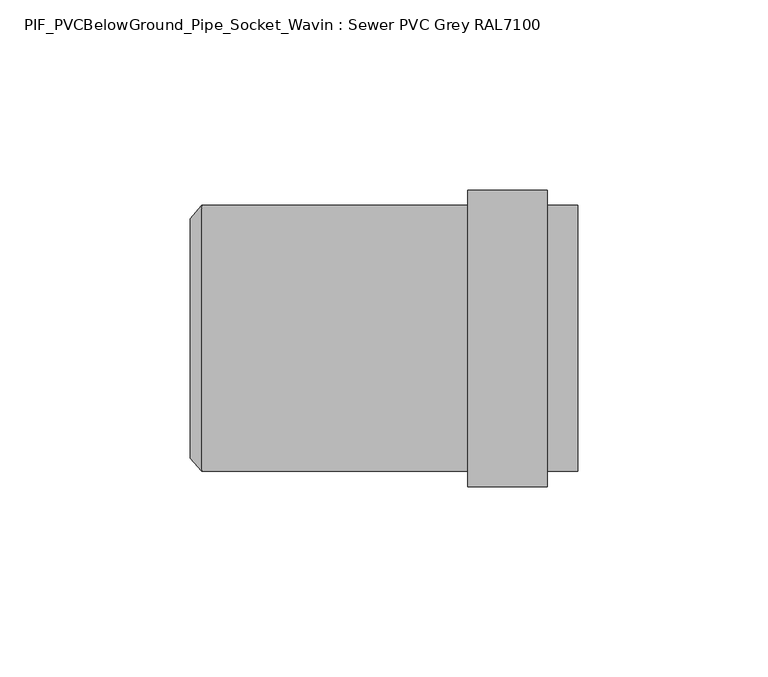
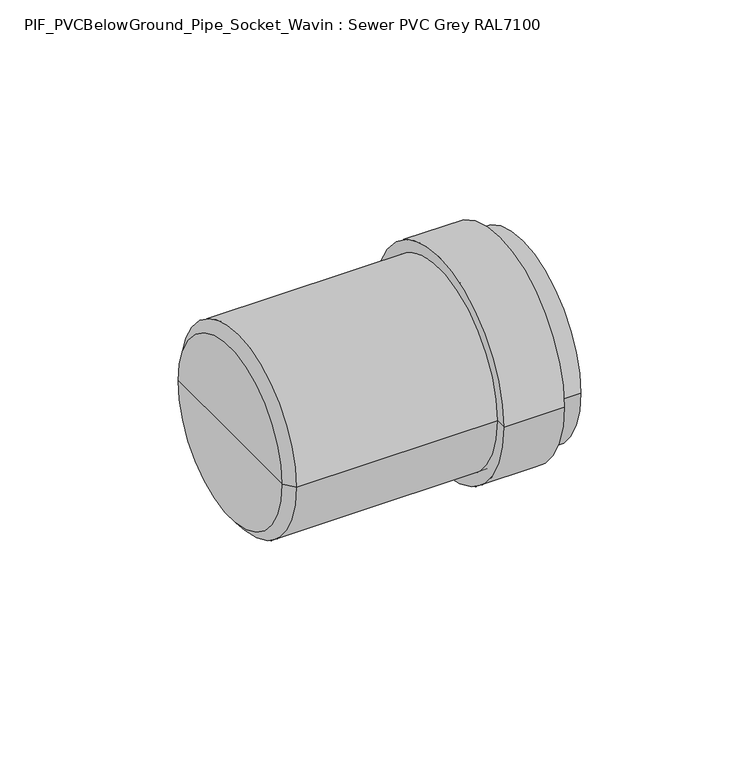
"""IFC4 building model written with IfcOpenShell, lengths in millimetres: pipe fitting geometry, PIF_PVCBelowGround_Pipe_Socket_Wavin : Sewer PVC Grey RAL7100."""

from ifc_helpers import new_model, si_unit, frame, origin, place, context, project, spatial, polyline, circle_curve, source, transform, mapped, element, save
from ifc_brep_helpers import plane_surface, cylinder_surface, revolved_surface, advanced_brep


def pif_pvcbelowground_pipe_socket_wavin_sewer_pvc_grey_ral7100_340a6b46(model_context):
    return source(origin(), model_context, "Body", "AdvancedBrep", [
        advanced_brep(
        [(70.0, -39.0, 0.0), (70.0, 39.0, 0.0), (91.0, 39.0, 0.0), (91.0, -39.0, 0.0), (70.0, -35.0, 0.0), (70.0, 35.0, 0.0), (91.0, -35.0, 0.0), (91.0, 35.0, 0.0)],
        [
            (0, 1, circle_curve(frame((70.0, 0.0, 0.0), z_axis=(1.0, 0.0, 0.0), x_axis=(0.0, 1.0, 0.0)), 39.0)),
            (1, 2),
            (2, 3, circle_curve(frame((91.0, 0.0, 0.0), z_axis=(-1.0, 0.0, 0.0), x_axis=(0.0, 1.0, 0.0)), 39.0)),
            (3, 0),
            (1, 0, circle_curve(frame((70.0, 0.0, 0.0), z_axis=(1.0, 0.0, 0.0), x_axis=(0.0, 1.0, 0.0)), 39.0)),
            (3, 2, circle_curve(frame((91.0, 0.0, 0.0), z_axis=(-1.0, 0.0, 0.0), x_axis=(0.0, 1.0, 0.0)), 39.0)),
            (4, 5, circle_curve(frame((70.0, 0.0, 0.0), z_axis=(1.0, 0.0, 0.0), x_axis=(0.0, 1.0, 0.0)), 35.0)),
            (5, 1),
            (0, 4),
            (5, 4, circle_curve(frame((70.0, 0.0, 0.0), z_axis=(1.0, 0.0, 0.0), x_axis=(0.0, 1.0, 0.0)), 35.0)),
            (6, 7, circle_curve(frame((91.0, 0.0, 0.0), z_axis=(1.0, 0.0, 0.0), x_axis=(0.0, 1.0, 0.0)), 35.0)),
            (7, 5),
            (4, 6),
            (7, 6, circle_curve(frame((91.0, 0.0, 0.0), z_axis=(1.0, 0.0, 0.0), x_axis=(0.0, 1.0, 0.0)), 35.0)),
            (2, 7),
            (6, 3),
        ],
        [
            cylinder_surface(frame((2009.3, 0.0, 0.0), z_axis=(-1.0, 0.0, 0.0), x_axis=(0.0, 1.0, 0.0)), 39.0),
            plane_surface(frame((70.0, 0.0, 0.0), z_axis=(-1.0, 0.0, 0.0), x_axis=(0.0, 1.0, 0.0))),
            revolved_surface(polyline([(70.0, 35.0, 0.0), (91.0, 35.0, 0.0)]), (2009.3, 0.0, 0.0), (-1.0, 0.0, 0.0)),
            plane_surface(frame((91.0, 0.0, 0.0), z_axis=(1.0, 0.0, 0.0), x_axis=(0.0, 1.0, 0.0))),
        ],
        [
            (0, [[1, 2, 3, 4]]),
            (0, [[5, -4, 6, -2]]),
            (1, [[7, 8, -1, 9]]),
            (1, [[10, -9, -5, -8]]),
            (2, [[11, 12, -7, 13]]),
            (2, [[14, -13, -10, -12]]),
            (3, [[-3, 15, -11, 16]]),
            (3, [[-6, -16, -14, -15]]),
        ],
    ),
        advanced_brep(
        [(99.0, -35.0, 0.0), (99.0, 35.0, 0.0), (99.0, 31.5, 0.0), (99.0, -31.5, 0.0), (0.0, -35.0, 0.0), (0.0, 35.0, 0.0), (-3.0, -31.5, 0.0), (-3.0, 31.5, 0.0), (-3.0, 0.0, 0.0), (0.0, -31.5, 0.0), (0.0, 31.5, 0.0), (0.0, 0.0, 0.0)],
        [
            (0, 1, circle_curve(frame((99.0, 0.0, 0.0), z_axis=(1.0, 0.0, 0.0), x_axis=(0.0, 1.0, 0.0)), 35.0)),
            (1, 2),
            (2, 3, circle_curve(frame((99.0, 0.0, 0.0), z_axis=(-1.0, 0.0, 0.0), x_axis=(0.0, 1.0, 0.0)), 31.5)),
            (3, 0),
            (1, 0, circle_curve(frame((99.0, 0.0, 0.0), z_axis=(1.0, 0.0, 0.0), x_axis=(0.0, 1.0, 0.0)), 35.0)),
            (3, 2, circle_curve(frame((99.0, 0.0, 0.0), z_axis=(-1.0, 0.0, 0.0), x_axis=(0.0, 1.0, 0.0)), 31.5)),
            (4, 5, circle_curve(frame((0.0, 0.0, 0.0), z_axis=(1.0, 0.0, 0.0), x_axis=(0.0, 1.0, 0.0)), 35.0)),
            (5, 1),
            (0, 4),
            (5, 4, circle_curve(frame((0.0, 0.0, 0.0), z_axis=(1.0, 0.0, 0.0), x_axis=(0.0, 1.0, 0.0)), 35.0)),
            (6, 7, circle_curve(frame((-3.0, 0.0, 0.0), z_axis=(1.0, 0.0, 0.0), x_axis=(0.0, 1.0, 0.0)), 31.5)),
            (7, 5),
            (4, 6),
            (7, 6, circle_curve(frame((-3.0, 0.0, 0.0), z_axis=(1.0, 0.0, 0.0), x_axis=(0.0, 1.0, 0.0)), 31.5)),
            (8, 7),
            (6, 8),
            (9, 10, circle_curve(frame((0.0, 0.0, 0.0), z_axis=(1.0, 0.0, 0.0), x_axis=(0.0, 1.0, 0.0)), 31.5)),
            (10, 11),
            (11, 9),
            (10, 9, circle_curve(frame((0.0, 0.0, 0.0), z_axis=(1.0, 0.0, 0.0), x_axis=(0.0, 1.0, 0.0)), 31.5)),
            (2, 10),
            (9, 3),
        ],
        [
            plane_surface(frame((99.0, 0.0, 0.0), z_axis=(1.0, 0.0, 0.0), x_axis=(0.0, 1.0, 0.0))),
            cylinder_surface(frame((2009.3, 0.0, 0.0), z_axis=(-1.0, 0.0, 0.0), x_axis=(0.0, 1.0, 0.0)), 35.0),
            revolved_surface(polyline([(0.0, 35.0, 0.0), (-3.0, 31.5, 0.0)]), (2009.3, 0.0, 0.0), (-1.0, 0.0, 0.0)),
            plane_surface(frame((-3.0, 0.0, 0.0), z_axis=(-1.0, 0.0, 0.0), x_axis=(0.0, 1.0, 0.0))),
            plane_surface(frame((0.0, 0.0, 0.0), z_axis=(1.0, 0.0, 0.0), x_axis=(0.0, 1.0, 0.0))),
            revolved_surface(polyline([(0.0, 31.5, 0.0), (99.0, 31.5, 0.0)]), (2009.3, 0.0, 0.0), (-1.0, 0.0, 0.0)),
        ],
        [
            (0, [[1, 2, 3, 4]]),
            (0, [[5, -4, 6, -2]]),
            (1, [[7, 8, -1, 9]]),
            (1, [[10, -9, -5, -8]]),
            (2, [[11, 12, -7, 13]]),
            (2, [[14, -13, -10, -12]]),
            (3, [[15, -11, 16]]),
            (3, [[-16, -14, -15]]),
            (4, [[17, 18, 19]]),
            (4, [[20, -19, -18]]),
            (5, [[-3, 21, -17, 22]]),
            (5, [[-6, -22, -20, -21]]),
        ],
    ),
    ])


if __name__ == "__main__":
    model = new_model("IFC4")
    model_context = context("Model", 3, world=origin())
    ifc_project = project(units=[si_unit("LENGTHUNIT", "METRE", prefix="MILLI")], contexts=[model_context])
    site = spatial("IfcSite", under=ifc_project)
    building = spatial("IfcBuilding", under=site)
    placement = place(None, origin())
    pif_pvcbelowground_pipe_socket_wavin_sewer_pvc_grey_ral7100_shape = pif_pvcbelowground_pipe_socket_wavin_sewer_pvc_grey_ral7100_340a6b46(model_context)
    element("IfcPipeFitting", 1, ObjectType="PIF_PVCBelowGround_Pipe_Socket_Wavin : Sewer PVC Grey RAL7100", at=placement, inside=building, context=model_context, shape_type="MappedRepresentation", body=[
        mapped(pif_pvcbelowground_pipe_socket_wavin_sewer_pvc_grey_ral7100_shape, transform((0.0, 0.0, 0.0), x_axis=(1.0, 0.0, 0.0), y_axis=(0.0, 1.0, 0.0), z_axis=(0.0, 0.0, 1.0))),
    ])
    save(model, "model.ifc")
